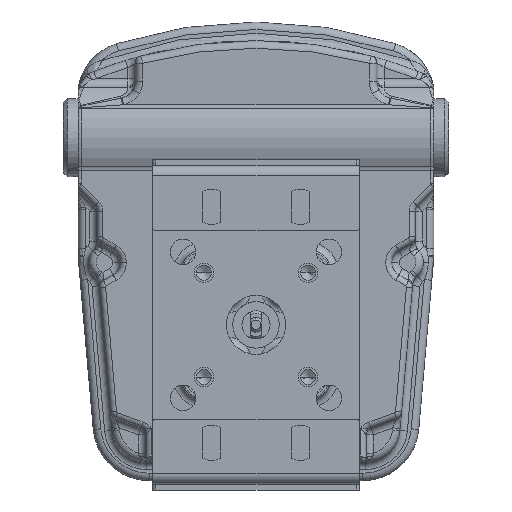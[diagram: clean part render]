
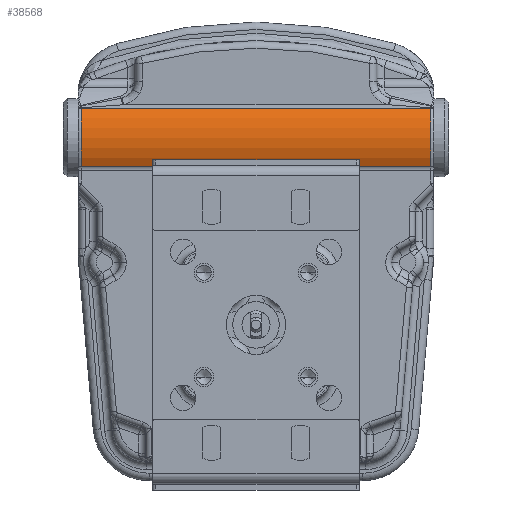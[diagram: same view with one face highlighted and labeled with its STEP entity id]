
A CAD part, front view. The second image highlights one B-rep face of the part: STEP entity #38568.
In plain terms, the highlighted cylindrical face has radius 20.637 mm (diameter 41.275 mm), a partial arc.
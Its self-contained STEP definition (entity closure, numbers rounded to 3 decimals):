
#1237 = CIRCLE ( 'NONE', #16787, 20.638 ) ;
#1560 = ORIENTED_EDGE ( 'NONE', *, *, #28410, .T. ) ;
#1928 = CARTESIAN_POINT ( 'NONE',  ( 59.182, 34.485, 53.573 ) ) ;
#2959 = CARTESIAN_POINT ( 'NONE',  ( -59.182, 52.578, 63.5 ) ) ;
#3822 = LINE ( 'NONE', #47776, #40877 ) ;
#5381 = CYLINDRICAL_SURFACE ( 'NONE', #46068, 20.638 ) ;
#5399 = CARTESIAN_POINT ( 'NONE',  ( -59.182, 34.485, 73.427 ) ) ;
#5941 = VERTEX_POINT ( 'NONE', #15326 ) ;
#7189 = CARTESIAN_POINT ( 'NONE',  ( 82.871, 52.578, 63.5 ) ) ;
#7603 = LINE ( 'NONE', #43513, #32739 ) ;
#8405 = EDGE_LOOP ( 'NONE', ( #44090, #15231, #12228, #1560 ) ) ;
#10864 = DIRECTION ( 'NONE',  ( -1., 0., 0. ) ) ;
#12228 = ORIENTED_EDGE ( 'NONE', *, *, #37131, .T. ) ;
#13484 = CIRCLE ( 'NONE', #26046, 20.638 ) ;
#14472 = DIRECTION ( 'NONE',  ( 1., 0., 0. ) ) ;
#14510 = VERTEX_POINT ( 'NONE', #23659 ) ;
#15231 = ORIENTED_EDGE ( 'NONE', *, *, #46759, .T. ) ;
#15326 = CARTESIAN_POINT ( 'NONE',  ( 59.182, 34.485, 73.427 ) ) ;
#16143 = VERTEX_POINT ( 'NONE', #5399 ) ;
#16787 = AXIS2_PLACEMENT_3D ( 'NONE', #2959, #14472, #29693 ) ;
#20730 = EDGE_CURVE ( 'NONE', #5941, #16143, #7603, .T. ) ;
#23659 = CARTESIAN_POINT ( 'NONE',  ( -59.182, 34.485, 53.573 ) ) ;
#25819 = FACE_OUTER_BOUND ( 'NONE', #8405, .T. ) ;
#26046 = AXIS2_PLACEMENT_3D ( 'NONE', #39612, #31648, #35297 ) ;
#27950 = VERTEX_POINT ( 'NONE', #1928 ) ;
#28410 = EDGE_CURVE ( 'NONE', #27950, #5941, #13484, .T. ) ;
#29693 = DIRECTION ( 'NONE',  ( 0., 0., 1. ) ) ;
#31648 = DIRECTION ( 'NONE',  ( -1., 0., 0. ) ) ;
#32739 = VECTOR ( 'NONE', #47388, 1000. ) ;
#33295 = DIRECTION ( 'NONE',  ( 0., 0., 1. ) ) ;
#35297 = DIRECTION ( 'NONE',  ( 0., 0., -1. ) ) ;
#37131 = EDGE_CURVE ( 'NONE', #14510, #27950, #3822, .T. ) ;
#38568 = ADVANCED_FACE ( 'NONE', ( #25819 ), #5381, .T. ) ;
#39564 = DIRECTION ( 'NONE',  ( 1., 0., 0. ) ) ;
#39612 = CARTESIAN_POINT ( 'NONE',  ( 59.182, 52.578, 63.5 ) ) ;
#40877 = VECTOR ( 'NONE', #39564, 1000. ) ;
#43513 = CARTESIAN_POINT ( 'NONE',  ( 82.871, 34.485, 73.427 ) ) ;
#44090 = ORIENTED_EDGE ( 'NONE', *, *, #20730, .T. ) ;
#46068 = AXIS2_PLACEMENT_3D ( 'NONE', #7189, #10864, #33295 ) ;
#46759 = EDGE_CURVE ( 'NONE', #16143, #14510, #1237, .T. ) ;
#47388 = DIRECTION ( 'NONE',  ( -1., 0., 0. ) ) ;
#47776 = CARTESIAN_POINT ( 'NONE',  ( 82.871, 34.485, 53.573 ) ) ;
